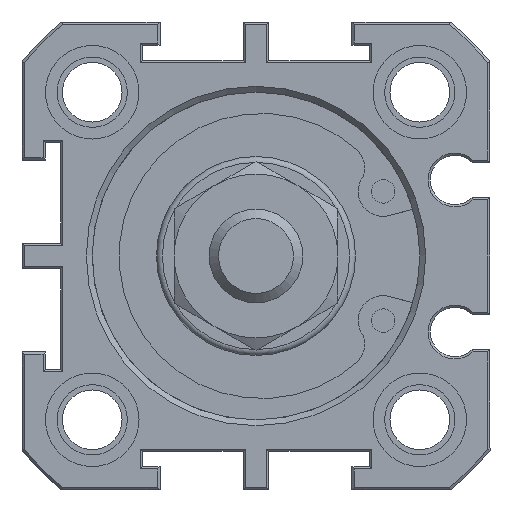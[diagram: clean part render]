
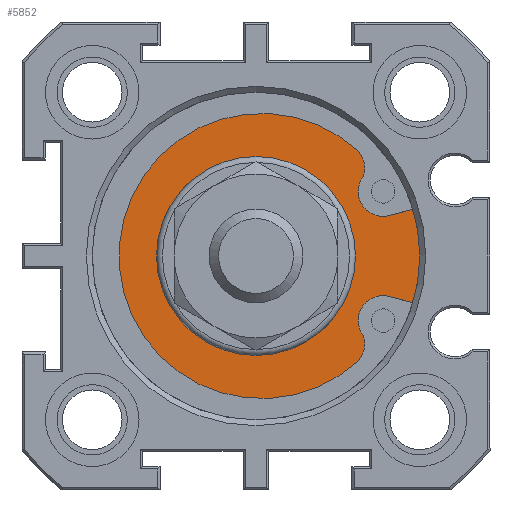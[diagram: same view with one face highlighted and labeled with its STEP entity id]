
A CAD part, front view. The second image highlights one B-rep face of the part: STEP entity #5852.
In plain terms, the highlighted planar face has unit normal (0, -1, 0).
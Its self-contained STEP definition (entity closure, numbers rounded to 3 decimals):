
#407=LINE('',#8353,#763);
#408=LINE('',#8365,#764);
#763=VECTOR('',#7086,1000.);
#764=VECTOR('',#7097,1000.);
#1322=ORIENTED_EDGE('',*,*,#2311,.T.);
#1323=ORIENTED_EDGE('',*,*,#2309,.F.);
#1324=ORIENTED_EDGE('',*,*,#2312,.T.);
#1325=ORIENTED_EDGE('',*,*,#2313,.T.);
#1326=ORIENTED_EDGE('',*,*,#2314,.T.);
#1327=ORIENTED_EDGE('',*,*,#2315,.T.);
#1328=ORIENTED_EDGE('',*,*,#2316,.T.);
#1329=ORIENTED_EDGE('',*,*,#2317,.T.);
#1330=ORIENTED_EDGE('',*,*,#2318,.T.);
#2309=EDGE_CURVE('',#2797,#2798,#2949,.T.);
#2311=EDGE_CURVE('',#2799,#2799,#2950,.T.);
#2312=EDGE_CURVE('',#2797,#2800,#407,.T.);
#2313=EDGE_CURVE('',#2800,#2801,#2951,.T.);
#2314=EDGE_CURVE('',#2801,#2802,#2952,.T.);
#2315=EDGE_CURVE('',#2802,#2803,#2953,.T.);
#2316=EDGE_CURVE('',#2803,#2804,#2954,.T.);
#2317=EDGE_CURVE('',#2804,#2805,#2955,.T.);
#2318=EDGE_CURVE('',#2805,#2798,#408,.T.);
#2797=VERTEX_POINT('',#8346);
#2798=VERTEX_POINT('',#8348);
#2799=VERTEX_POINT('',#8352);
#2800=VERTEX_POINT('',#8354);
#2801=VERTEX_POINT('',#8356);
#2802=VERTEX_POINT('',#8358);
#2803=VERTEX_POINT('',#8360);
#2804=VERTEX_POINT('',#8362);
#2805=VERTEX_POINT('',#8364);
#2949=CIRCLE('',#6221,14.7);
#2950=CIRCLE('',#6223,8.5);
#2951=CIRCLE('',#6224,2.134);
#2952=CIRCLE('',#6225,2.134);
#2953=CIRCLE('',#6226,12.185);
#2954=CIRCLE('',#6227,2.134);
#2955=CIRCLE('',#6228,2.134);
#3152=EDGE_LOOP('',(#1322));
#3153=EDGE_LOOP('',(#1323,#1324,#1325,#1326,#1327,#1328,#1329,#1330));
#3494=FACE_BOUND('',#3152,.T.);
#3495=FACE_BOUND('',#3153,.T.);
#3746=PLANE('',#6222);
#5852=ADVANCED_FACE('',(#3494,#3495),#3746,.F.);
#6221=AXIS2_PLACEMENT_3D('',#8347,#7079,#7080);
#6222=AXIS2_PLACEMENT_3D('',#8350,#7082,#7083);
#6223=AXIS2_PLACEMENT_3D('',#8351,#7084,#7085);
#6224=AXIS2_PLACEMENT_3D('',#8355,#7087,#7088);
#6225=AXIS2_PLACEMENT_3D('',#8357,#7089,#7090);
#6226=AXIS2_PLACEMENT_3D('',#8359,#7091,#7092);
#6227=AXIS2_PLACEMENT_3D('',#8361,#7093,#7094);
#6228=AXIS2_PLACEMENT_3D('',#8363,#7095,#7096);
#7079=DIRECTION('',(0.,1.,0.));
#7080=DIRECTION('',(0.,0.,1.));
#7082=DIRECTION('',(0.,1.,0.));
#7083=DIRECTION('',(0.,0.,1.));
#7084=DIRECTION('',(0.,1.,0.));
#7085=DIRECTION('',(0.,0.,1.));
#7086=DIRECTION('',(-0.966,0.,-0.259));
#7087=DIRECTION('',(0.,1.,0.));
#7088=DIRECTION('',(1.,0.,0.));
#7089=DIRECTION('',(0.,-1.,0.));
#7090=DIRECTION('',(-1.,0.,0.));
#7091=DIRECTION('',(0.,-1.,0.));
#7092=DIRECTION('',(1.,0.,0.));
#7093=DIRECTION('',(0.,-1.,0.));
#7094=DIRECTION('',(-1.,0.,0.));
#7095=DIRECTION('',(0.,1.,0.));
#7096=DIRECTION('',(1.,0.,0.));
#7097=DIRECTION('',(0.966,0.,-0.259));
#8346=CARTESIAN_POINT('',(14.095,3.,4.175));
#8347=CARTESIAN_POINT('',(0.,3.,0.));
#8348=CARTESIAN_POINT('',(14.095,3.,-4.175));
#8350=CARTESIAN_POINT('',(0.,3.,-2.1));
#8351=CARTESIAN_POINT('',(0.,3.,0.));
#8352=CARTESIAN_POINT('',(0.,3.,8.5));
#8353=CARTESIAN_POINT('',(14.095,3.,4.175));
#8354=CARTESIAN_POINT('',(11.419,3.,3.458));
#8355=CARTESIAN_POINT('',(10.866,3.,5.52));
#8356=CARTESIAN_POINT('',(9.146,3.,6.783));
#8357=CARTESIAN_POINT('',(7.151,3.,7.541));
#8358=CARTESIAN_POINT('',(8.751,3.,8.953));
#8359=CARTESIAN_POINT('',(0.486,3.,0.));
#8360=CARTESIAN_POINT('',(8.751,3.,-8.953));
#8361=CARTESIAN_POINT('',(7.151,3.,-7.541));
#8362=CARTESIAN_POINT('',(9.146,3.,-6.783));
#8363=CARTESIAN_POINT('',(10.866,3.,-5.52));
#8364=CARTESIAN_POINT('',(11.419,3.,-3.458));
#8365=CARTESIAN_POINT('',(11.419,3.,-3.458));
